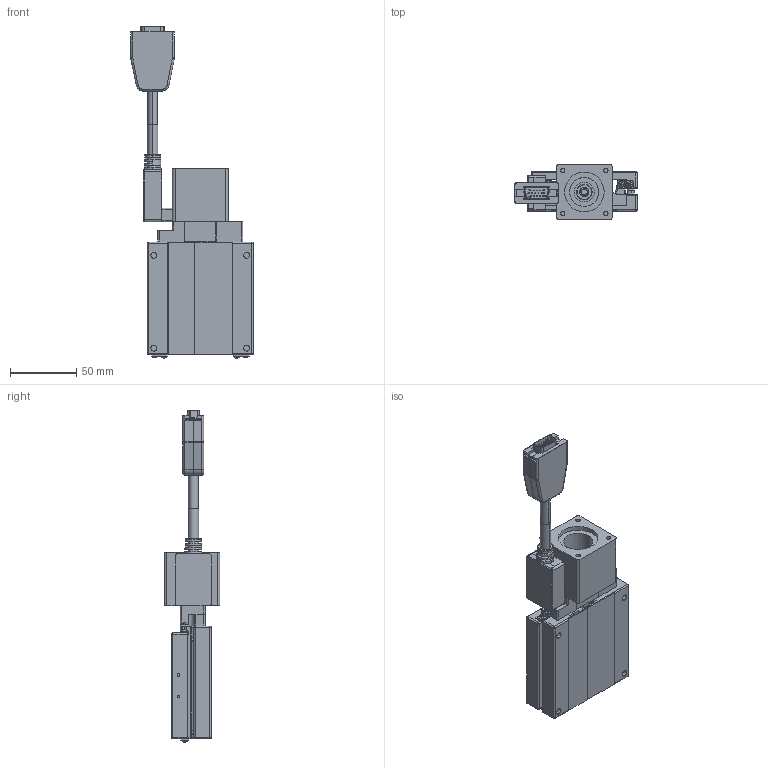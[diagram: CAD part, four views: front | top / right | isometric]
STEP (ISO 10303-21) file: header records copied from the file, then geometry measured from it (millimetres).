
FILE_DESCRIPTION (( 'STEP AP203' ), '1' );
FILE_NAME ('CXS8020(伺服無馬達P.C.D46).STEP', '2023-11-30T08:35:53', ( '' ), ( '' ), 'SwSTEP 2.0', 'SolidWorks 2019', '' );
FILE_SCHEMA (( 'CONFIG_CONTROL_DESIGN' ));
Length unit declared in the file: millimetre
Products named in the file (3): Group2^CXS8020(伺服無馬達P.C.D46)_defeature_GMT; Group1^CXS8020(伺服無馬達P.C.D46)_defeature_GMT; CXS8020(伺服無馬達P.C.D46)
Assembly tree (2 placements, depth 2):
  CXS8020(伺服無馬達P.C.D46)
    Group1^CXS8020(伺服無馬達P.C.D46)_defeature_GMT
    Group2^CXS8020(伺服無馬達P.C.D46)_defeature_GMT
Bounding box: 92.5 x 42 x 250.45 mm (x, y, z)
Volume: 223957.9 mm3; surface area: 86700.4 mm2
Topology: 7 solids, 10 shells, 2635 faces, 6617 edges, 4133 vertices
Faces by surface type: plane 1461, cylinder 628, cone 176, bspline 176, sphere 150, torus 44
Entity records: 85933 total; most frequent: CARTESIAN_POINT 23061, ORIENTED_EDGE 13110, DIRECTION 12889, EDGE_CURVE 6555, AXIS2_PLACEMENT_3D 4435, VERTEX_POINT 4133, VECTOR 4019, LINE 4019
